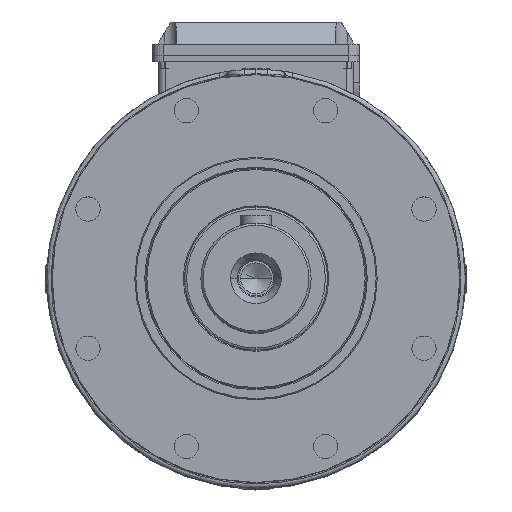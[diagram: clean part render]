
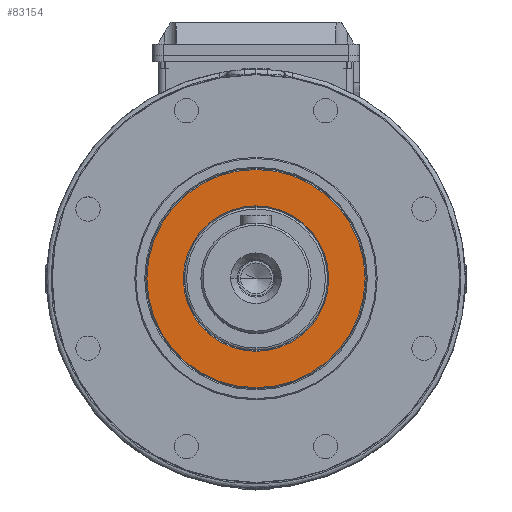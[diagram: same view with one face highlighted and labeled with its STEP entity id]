
A CAD part, top view. The second image highlights one B-rep face of the part: STEP entity #83154.
In plain terms, the highlighted planar face has unit normal (0, 0, 1) as drawn and (0, 0, -1) by its records, which use the part's own axes.
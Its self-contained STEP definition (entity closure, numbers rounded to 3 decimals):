
#199 = VERTEX_POINT ( 'NONE', #79373 ) ;
#206 = VERTEX_POINT ( 'NONE', #79455 ) ;
#236 = VERTEX_POINT ( 'NONE', #79494 ) ;
#251 = VERTEX_POINT ( 'NONE', #79532 ) ;
#3983 = AXIS2_PLACEMENT_3D ( 'NONE', #10224, #10158, #10183 ) ;
#10158 = DIRECTION ( 'NONE',  ( 0., 0., 1. ) ) ;
#10183 = DIRECTION ( 'NONE',  ( 0., -1., 0. ) ) ;
#10202 = PLANE ( 'NONE',  #3983 ) ;
#10224 = CARTESIAN_POINT ( 'NONE',  ( -33., 0., 0. ) ) ;
#11979 = EDGE_LOOP ( 'NONE', ( #39118, #39124 ) ) ;
#12010 = EDGE_LOOP ( 'NONE', ( #39126, #39164 ) ) ;
#14873 = FACE_BOUND ( 'NONE', #11979, .T. ) ;
#14875 = FACE_OUTER_BOUND ( 'NONE', #12010, .T. ) ;
#34083 = AXIS2_PLACEMENT_3D ( 'NONE', #53998, #54049, #54000 ) ;
#34125 = AXIS2_PLACEMENT_3D ( 'NONE', #75679, #75659, #75669 ) ;
#34138 = AXIS2_PLACEMENT_3D ( 'NONE', #75260, #75297, #75278 ) ;
#34140 = AXIS2_PLACEMENT_3D ( 'NONE', #75352, #75374, #75381 ) ;
#34544 = EDGE_CURVE ( 'NONE', #251, #206, #42113, .T. ) ;
#34553 = EDGE_CURVE ( 'NONE', #199, #236, #40702, .T. ) ;
#34631 = EDGE_CURVE ( 'NONE', #206, #251, #41605, .T. ) ;
#34678 = EDGE_CURVE ( 'NONE', #236, #199, #98489, .T. ) ;
#39118 = ORIENTED_EDGE ( 'NONE', *, *, #34631, .F. ) ;
#39124 = ORIENTED_EDGE ( 'NONE', *, *, #34544, .F. ) ;
#39126 = ORIENTED_EDGE ( 'NONE', *, *, #34553, .F. ) ;
#39164 = ORIENTED_EDGE ( 'NONE', *, *, #34678, .F. ) ;
#40702 = CIRCLE ( 'NONE', #34125, 49.5 ) ;
#41605 = CIRCLE ( 'NONE', #34138, 33. ) ;
#42113 = CIRCLE ( 'NONE', #34083, 33. ) ;
#53998 = CARTESIAN_POINT ( 'NONE',  ( 0., 0., 0. ) ) ;
#54000 = DIRECTION ( 'NONE',  ( -1., 0., 0. ) ) ;
#54049 = DIRECTION ( 'NONE',  ( 0., 0., -1. ) ) ;
#75260 = CARTESIAN_POINT ( 'NONE',  ( 0., 0., 0. ) ) ;
#75278 = DIRECTION ( 'NONE',  ( -1., 0., 0. ) ) ;
#75297 = DIRECTION ( 'NONE',  ( 0., 0., -1. ) ) ;
#75352 = CARTESIAN_POINT ( 'NONE',  ( 0., 0., 0. ) ) ;
#75374 = DIRECTION ( 'NONE',  ( 0., 0., 1. ) ) ;
#75381 = DIRECTION ( 'NONE',  ( 1., 0., 0. ) ) ;
#75659 = DIRECTION ( 'NONE',  ( 0., 0., 1. ) ) ;
#75669 = DIRECTION ( 'NONE',  ( 1., 0., 0. ) ) ;
#75679 = CARTESIAN_POINT ( 'NONE',  ( 0., 0., 0. ) ) ;
#79373 = CARTESIAN_POINT ( 'NONE',  ( 49.5, 0., 0. ) ) ;
#79455 = CARTESIAN_POINT ( 'NONE',  ( -33., 0., 0. ) ) ;
#79494 = CARTESIAN_POINT ( 'NONE',  ( -49.5, 0., 0. ) ) ;
#79532 = CARTESIAN_POINT ( 'NONE',  ( 33., 0., 0. ) ) ;
#83154 = ADVANCED_FACE ( 'NONE', ( #14873, #14875 ), #10202, .F. ) ;
#98489 = CIRCLE ( 'NONE', #34140, 49.5 ) ;
